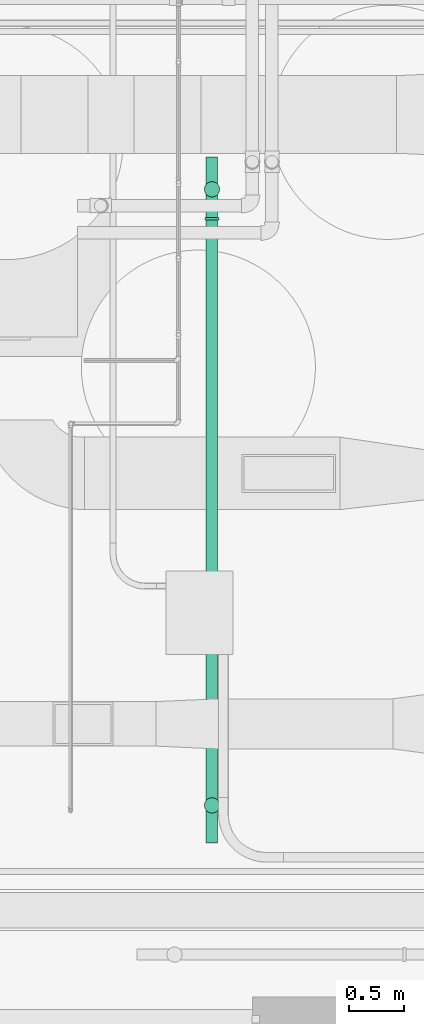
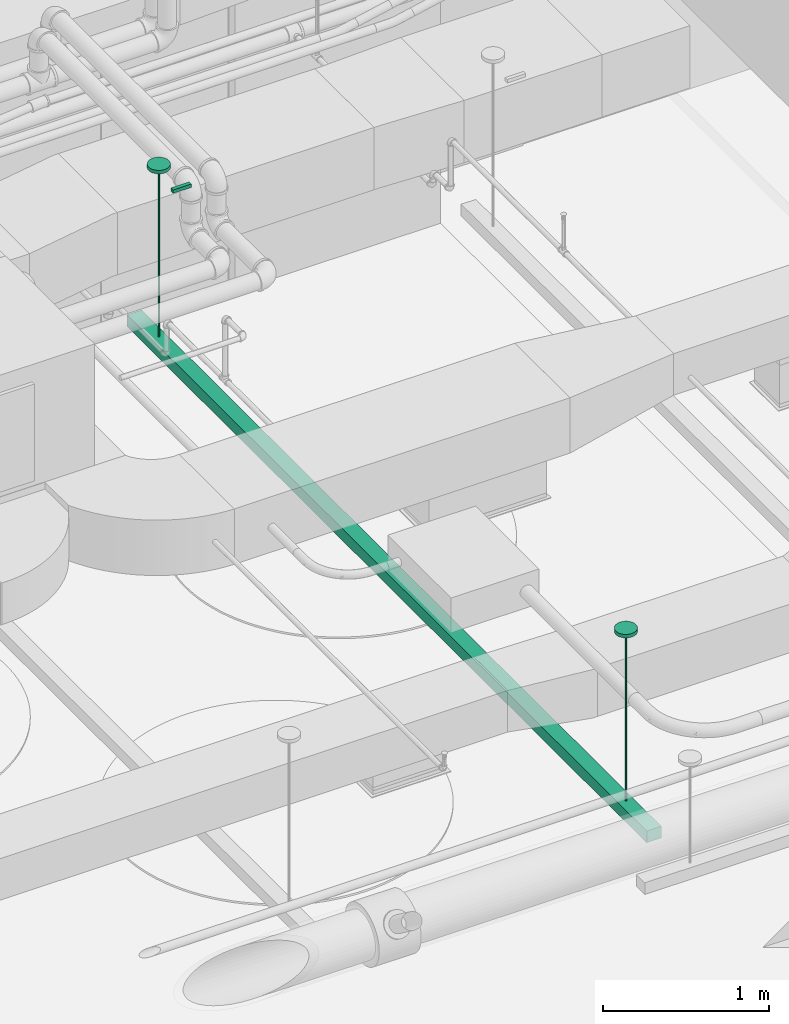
# One storey, part 28 of 108: 1 light fixture.
"""IFC4 building model written with IfcOpenShell, lengths in feet."""

from ifc_helpers import new_model, entity, si_unit, converted_unit, derived_unit, direction, frame, origin, place, context, subcontext, project, spatial, source, transform, mapped, material, type_object, type_shapes, element, save


model = new_model("IFC4")

# Units and contexts
model_context = context("Model", 3, precision=0.0001, world=origin(), true_north=direction((6.12303176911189e-17, 1.0)))
body_context = subcontext(model_context, "Body", "Model", "MODEL_VIEW")
ifc_project = project(units=[converted_unit("LENGTHUNIT", "FOOT", entity("IfcRatioMeasure", 0.3048), si_unit("LENGTHUNIT", "METRE"), dimensions=[1, 0, 0, 0, 0, 0, 0]), converted_unit("AREAUNIT", "SQUARE FOOT", entity("IfcRatioMeasure", 0.09290304), si_unit("AREAUNIT", "SQUARE_METRE"), dimensions=[2, 0, 0, 0, 0, 0, 0]), converted_unit("VOLUMEUNIT", "CUBIC FOOT", entity("IfcRatioMeasure", 0.028316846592), si_unit("VOLUMEUNIT", "CUBIC_METRE"), dimensions=[3, 0, 0, 0, 0, 0, 0]), converted_unit("PLANEANGLEUNIT", "DEGREE", entity("IfcRatioMeasure", 0.0174532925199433), si_unit("PLANEANGLEUNIT", "RADIAN"), dimensions=[0, 0, 0, 0, 0, 0, 0]), si_unit("MASSUNIT", "GRAM", prefix="KILO"), derived_unit("MASSDENSITYUNIT", [(si_unit("MASSUNIT", "GRAM", prefix="KILO"), 1), (si_unit("LENGTHUNIT", "METRE"), -3)]), si_unit("TIMEUNIT", "SECOND"), si_unit("FREQUENCYUNIT", "HERTZ"), si_unit("THERMODYNAMICTEMPERATUREUNIT", "DEGREE_CELSIUS"), derived_unit("THERMALTRANSMITTANCEUNIT", [(si_unit("MASSUNIT", "GRAM", prefix="KILO"), 1), (si_unit("THERMODYNAMICTEMPERATUREUNIT", "KELVIN"), -1), (si_unit("TIMEUNIT", "SECOND"), -3)]), derived_unit("VOLUMETRICFLOWRATEUNIT", [(si_unit("LENGTHUNIT", "METRE"), 3), (si_unit("TIMEUNIT", "SECOND"), -1)]), si_unit("ELECTRICCURRENTUNIT", "AMPERE"), si_unit("ELECTRICVOLTAGEUNIT", "VOLT"), si_unit("POWERUNIT", "WATT"), si_unit("FORCEUNIT", "NEWTON"), si_unit("ILLUMINANCEUNIT", "LUX"), si_unit("LUMINOUSFLUXUNIT", "LUMEN"), si_unit("LUMINOUSINTENSITYUNIT", "CANDELA"), derived_unit("USERDEFINED", [(si_unit("MASSUNIT", "GRAM", prefix="KILO"), -1), (si_unit("LENGTHUNIT", "METRE"), -2), (si_unit("TIMEUNIT", "SECOND"), 3), (si_unit("LUMINOUSFLUXUNIT", "LUMEN"), 1)]), derived_unit("LINEARVELOCITYUNIT", [(si_unit("LENGTHUNIT", "METRE"), 1), (si_unit("TIMEUNIT", "SECOND"), -1)]), si_unit("PRESSUREUNIT", "PASCAL"), derived_unit("USERDEFINED", [(si_unit("LENGTHUNIT", "METRE"), -2), (si_unit("MASSUNIT", "GRAM", prefix="KILO"), 1), (si_unit("TIMEUNIT", "SECOND"), -2)])], contexts=[model_context])

# Site, building, storey
site_placement = place(None, origin())
site = spatial("IfcSite", under=ifc_project, at=site_placement, Name="Default", CompositionType="ELEMENT")
building_placement = place(site_placement, origin())
building = spatial("IfcBuilding", under=site, at=building_placement, CompositionType="ELEMENT")
storey_placement = place(building_placement, frame((0.0, 0.0, 168.0)))
storey = spatial("IfcBuildingStorey", under=building, at=storey_placement, Name="Level 15", CompositionType="ELEMENT", Elevation=168.0)

# Light fixture
ifc_material = material(Name="Lighting Proxy", Category="System")
light_fixture_type = type_object("IfcLightFixtureType", Name="20' 8\"", PredefinedType="NOTDEFINED", material=ifc_material)
cartesian_point_1 = entity("IfcCartesianPoint", [0.891666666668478, 0.23440049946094, 4.43794169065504])
vertex_point_1 = entity("IfcVertexPoint", cartesian_point_1)
cartesian_point_2 = entity("IfcCartesianPoint", [1.35000000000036, 0.23440049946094, 4.43794169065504])
vertex_point_2 = entity("IfcVertexPoint", cartesian_point_2)
cartesian_point_3 = entity("IfcCartesianPoint", [1.12083333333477, 0.23440049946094, 4.43794169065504])
ifc_direction_1 = entity("IfcDirection", [0.0, 0.0, -1.0])
ifc_direction_2 = entity("IfcDirection", [1.0, 0.0, 0.0])
edge_curve_1 = entity("IfcEdgeCurve", vertex_point_1, vertex_point_2, entity("IfcTrimmedCurve", entity("IfcCircle", entity("IfcAxis2Placement3D", cartesian_point_3, ifc_direction_1, ifc_direction_2), 0.22916666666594), [cartesian_point_1], [cartesian_point_2], True, "CARTESIAN"), True)
cartesian_point_4 = entity("IfcCartesianPoint", [1.35000000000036, 0.234400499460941, 4.35387752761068])
vertex_point_3 = entity("IfcVertexPoint", cartesian_point_4)
edge_curve_2 = entity("IfcEdgeCurve", vertex_point_2, vertex_point_3, entity("IfcTrimmedCurve", entity("IfcLine", cartesian_point_2, entity("IfcVector", ifc_direction_1, 1.0)), [cartesian_point_2], [cartesian_point_4], True, "CARTESIAN"), True)
cartesian_point_5 = entity("IfcCartesianPoint", [0.891666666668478, 0.234400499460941, 4.35387752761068])
vertex_point_4 = entity("IfcVertexPoint", cartesian_point_5)
cartesian_point_6 = entity("IfcCartesianPoint", [1.12083333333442, 0.234400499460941, 4.35387752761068])
ifc_direction_3 = entity("IfcDirection", [0.0, 0.0, 1.0])
edge_curve_3 = entity("IfcEdgeCurve", vertex_point_3, vertex_point_4, entity("IfcTrimmedCurve", entity("IfcCircle", entity("IfcAxis2Placement3D", cartesian_point_6, ifc_direction_3, ifc_direction_2), 0.22916666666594), [cartesian_point_4], [cartesian_point_5], True, "CARTESIAN"), True)
edge_curve_4 = entity("IfcEdgeCurve", vertex_point_4, vertex_point_1, entity("IfcTrimmedCurve", entity("IfcLine", cartesian_point_5, entity("IfcVector", ifc_direction_3, 1.0)), [cartesian_point_5], [cartesian_point_1], True, "CARTESIAN"), True)
cartesian_point_7 = entity("IfcCartesianPoint", [1.12083333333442, 0.234400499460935, 4.75044169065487])
edge_curve_5 = entity("IfcEdgeCurve", vertex_point_2, vertex_point_1, entity("IfcTrimmedCurve", entity("IfcCircle", entity("IfcAxis2Placement3D", cartesian_point_3, ifc_direction_1, ifc_direction_2), 0.22916666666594), [cartesian_point_2], [cartesian_point_1], True, "CARTESIAN"), True)
edge_curve_6 = entity("IfcEdgeCurve", vertex_point_4, vertex_point_3, entity("IfcTrimmedCurve", entity("IfcCircle", entity("IfcAxis2Placement3D", cartesian_point_6, ifc_direction_3, ifc_direction_2), 0.22916666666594), [cartesian_point_5], [cartesian_point_4], True, "CARTESIAN"), True)
cartesian_point_8 = entity("IfcCartesianPoint", [1.14166666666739, 0.234400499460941, 4.35387752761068])
vertex_point_5 = entity("IfcVertexPoint", cartesian_point_8)
ifc_direction_4 = entity("IfcDirection", [-1.0, 0.0, 0.0])
edge_curve_7 = entity("IfcEdgeCurve", vertex_point_3, vertex_point_5, entity("IfcTrimmedCurve", entity("IfcLine", cartesian_point_4, entity("IfcVector", ifc_direction_4, 1.0)), [cartesian_point_4], [cartesian_point_8], True, "CARTESIAN"), True)
cartesian_point_9 = entity("IfcCartesianPoint", [1.10000000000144, 0.234400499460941, 4.35387752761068])
vertex_point_6 = entity("IfcVertexPoint", cartesian_point_9)
edge_curve_8 = entity("IfcEdgeCurve", vertex_point_5, vertex_point_6, entity("IfcTrimmedCurve", entity("IfcCircle", entity("IfcAxis2Placement3D", cartesian_point_6, ifc_direction_3, ifc_direction_2), 0.0208333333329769), [cartesian_point_8], [cartesian_point_9], True, "CARTESIAN"), True)
edge_curve_9 = entity("IfcEdgeCurve", vertex_point_6, vertex_point_4, entity("IfcTrimmedCurve", entity("IfcLine", cartesian_point_9, entity("IfcVector", ifc_direction_4, 1.0)), [cartesian_point_9], [cartesian_point_5], True, "CARTESIAN"), True)
edge_curve_10 = entity("IfcEdgeCurve", vertex_point_6, vertex_point_5, entity("IfcTrimmedCurve", entity("IfcCircle", entity("IfcAxis2Placement3D", cartesian_point_6, ifc_direction_3, ifc_direction_2), 0.0208333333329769), [cartesian_point_9], [cartesian_point_8], True, "CARTESIAN"), True)
cartesian_point_10 = entity("IfcCartesianPoint", [1.14166666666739, 0.234400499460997, 0.281250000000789])
vertex_point_7 = entity("IfcVertexPoint", cartesian_point_10)
edge_curve_11 = entity("IfcEdgeCurve", vertex_point_5, vertex_point_7, entity("IfcTrimmedCurve", entity("IfcLine", cartesian_point_8, entity("IfcVector", ifc_direction_1, 1.0)), [cartesian_point_8], [cartesian_point_10], True, "CARTESIAN"), True)
cartesian_point_11 = entity("IfcCartesianPoint", [1.10000000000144, 0.234400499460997, 0.281250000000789])
vertex_point_8 = entity("IfcVertexPoint", cartesian_point_11)
cartesian_point_12 = entity("IfcCartesianPoint", [1.12083333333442, 0.234400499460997, 0.281250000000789])
edge_curve_12 = entity("IfcEdgeCurve", vertex_point_7, vertex_point_8, entity("IfcTrimmedCurve", entity("IfcCircle", entity("IfcAxis2Placement3D", cartesian_point_12, ifc_direction_3, ifc_direction_2), 0.0208333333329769), [cartesian_point_10], [cartesian_point_11], True, "CARTESIAN"), True)
edge_curve_13 = entity("IfcEdgeCurve", vertex_point_8, vertex_point_6, entity("IfcTrimmedCurve", entity("IfcLine", cartesian_point_11, entity("IfcVector", ifc_direction_3, 1.0)), [cartesian_point_11], [cartesian_point_9], True, "CARTESIAN"), True)
edge_curve_14 = entity("IfcEdgeCurve", vertex_point_8, vertex_point_7, entity("IfcTrimmedCurve", entity("IfcCircle", entity("IfcAxis2Placement3D", cartesian_point_12, ifc_direction_3, ifc_direction_2), 0.0208333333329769), [cartesian_point_11], [cartesian_point_10], True, "CARTESIAN"), True)
vertex_point_9 = entity("IfcVertexPoint", cartesian_point_12)
edge_curve_15 = entity("IfcEdgeCurve", vertex_point_7, vertex_point_9, entity("IfcTrimmedCurve", entity("IfcLine", cartesian_point_10, entity("IfcVector", ifc_direction_4, 1.0)), [cartesian_point_10], [cartesian_point_12], True, "CARTESIAN"), True)
edge_curve_16 = entity("IfcEdgeCurve", vertex_point_9, vertex_point_8, entity("IfcTrimmedCurve", entity("IfcLine", cartesian_point_12, entity("IfcVector", ifc_direction_4, 1.0)), [cartesian_point_12], [cartesian_point_11], True, "CARTESIAN"), True)
vertex_point_10 = entity("IfcVertexPoint", cartesian_point_3)
edge_curve_17 = entity("IfcEdgeCurve", vertex_point_10, vertex_point_2, entity("IfcTrimmedCurve", entity("IfcLine", cartesian_point_3, entity("IfcVector", ifc_direction_2, 1.0)), [cartesian_point_3], [cartesian_point_2], True, "CARTESIAN"), True)
edge_curve_18 = entity("IfcEdgeCurve", vertex_point_1, vertex_point_10, entity("IfcTrimmedCurve", entity("IfcLine", cartesian_point_1, entity("IfcVector", ifc_direction_2, 1.0)), [cartesian_point_1], [cartesian_point_3], True, "CARTESIAN"), True)
cartesian_point_13 = entity("IfcCartesianPoint", [19.7749999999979, 0.23440049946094, 4.43794169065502])
vertex_point_11 = entity("IfcVertexPoint", cartesian_point_13)
cartesian_point_14 = entity("IfcCartesianPoint", [19.3166666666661, 0.23440049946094, 4.43794169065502])
vertex_point_12 = entity("IfcVertexPoint", cartesian_point_14)
cartesian_point_15 = entity("IfcCartesianPoint", [19.5458333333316, 0.23440049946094, 4.43794169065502])
ifc_direction_5 = entity("IfcDirection", [0.0, 0.0, 1.0])
ifc_direction_6 = entity("IfcDirection", [-1.0, 0.0, 0.0])
edge_curve_19 = entity("IfcEdgeCurve", vertex_point_11, vertex_point_12, entity("IfcTrimmedCurve", entity("IfcCircle", entity("IfcAxis2Placement3D", cartesian_point_15, ifc_direction_5, ifc_direction_6), 0.229166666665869), [cartesian_point_13], [cartesian_point_14], True, "CARTESIAN"), True)
vertex_point_13 = entity("IfcVertexPoint", cartesian_point_15)
ifc_direction_7 = entity("IfcDirection", [1.0, 0.0, 0.0])
edge_curve_20 = entity("IfcEdgeCurve", vertex_point_12, vertex_point_13, entity("IfcTrimmedCurve", entity("IfcLine", cartesian_point_14, entity("IfcVector", ifc_direction_7, 1.0)), [cartesian_point_14], [cartesian_point_15], True, "CARTESIAN"), True)
edge_curve_21 = entity("IfcEdgeCurve", vertex_point_13, vertex_point_11, entity("IfcTrimmedCurve", entity("IfcLine", cartesian_point_15, entity("IfcVector", ifc_direction_7, 1.0)), [cartesian_point_15], [cartesian_point_13], True, "CARTESIAN"), True)
edge_curve_22 = entity("IfcEdgeCurve", vertex_point_12, vertex_point_11, entity("IfcTrimmedCurve", entity("IfcCircle", entity("IfcAxis2Placement3D", cartesian_point_15, ifc_direction_5, ifc_direction_6), 0.229166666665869), [cartesian_point_14], [cartesian_point_13], True, "CARTESIAN"), True)
cartesian_point_16 = entity("IfcCartesianPoint", [19.7749999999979, 0.234400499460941, 4.35387752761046])
vertex_point_14 = entity("IfcVertexPoint", cartesian_point_16)
cartesian_point_17 = entity("IfcCartesianPoint", [19.3166666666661, 0.234400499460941, 4.35387752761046])
vertex_point_15 = entity("IfcVertexPoint", cartesian_point_17)
cartesian_point_18 = entity("IfcCartesianPoint", [19.545833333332, 0.234400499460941, 4.35387752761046])
edge_curve_23 = entity("IfcEdgeCurve", vertex_point_14, vertex_point_15, entity("IfcTrimmedCurve", entity("IfcCircle", entity("IfcAxis2Placement3D", cartesian_point_18, ifc_direction_5, ifc_direction_6), 0.229166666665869), [cartesian_point_16], [cartesian_point_17], True, "CARTESIAN"), True)
edge_curve_24 = entity("IfcEdgeCurve", vertex_point_15, vertex_point_12, entity("IfcTrimmedCurve", entity("IfcLine", cartesian_point_17, entity("IfcVector", ifc_direction_5, 1.0)), [cartesian_point_17], [cartesian_point_14], True, "CARTESIAN"), True)
ifc_direction_8 = entity("IfcDirection", [0.0, 0.0, -1.0])
edge_curve_25 = entity("IfcEdgeCurve", vertex_point_11, vertex_point_14, entity("IfcTrimmedCurve", entity("IfcLine", cartesian_point_13, entity("IfcVector", ifc_direction_8, 1.0)), [cartesian_point_13], [cartesian_point_16], True, "CARTESIAN"), True)
cartesian_point_19 = entity("IfcCartesianPoint", [19.545833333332, 0.234400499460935, 4.75044169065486])
edge_curve_26 = entity("IfcEdgeCurve", vertex_point_15, vertex_point_14, entity("IfcTrimmedCurve", entity("IfcCircle", entity("IfcAxis2Placement3D", cartesian_point_18, ifc_direction_5, ifc_direction_6), 0.229166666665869), [cartesian_point_17], [cartesian_point_16], True, "CARTESIAN"), True)
cartesian_point_20 = entity("IfcCartesianPoint", [19.5666666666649, 0.234400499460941, 4.35387752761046])
vertex_point_16 = entity("IfcVertexPoint", cartesian_point_20)
cartesian_point_21 = entity("IfcCartesianPoint", [19.5249999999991, 0.234400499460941, 4.35387752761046])
vertex_point_17 = entity("IfcVertexPoint", cartesian_point_21)
edge_curve_27 = entity("IfcEdgeCurve", vertex_point_16, vertex_point_17, entity("IfcTrimmedCurve", entity("IfcCircle", entity("IfcAxis2Placement3D", cartesian_point_18, ifc_direction_5, ifc_direction_6), 0.0208333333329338), [cartesian_point_20], [cartesian_point_21], True, "CARTESIAN"), True)
edge_curve_28 = entity("IfcEdgeCurve", vertex_point_17, vertex_point_15, entity("IfcTrimmedCurve", entity("IfcLine", cartesian_point_21, entity("IfcVector", ifc_direction_6, 1.0)), [cartesian_point_21], [cartesian_point_17], True, "CARTESIAN"), True)
edge_curve_29 = entity("IfcEdgeCurve", vertex_point_14, vertex_point_16, entity("IfcTrimmedCurve", entity("IfcLine", cartesian_point_16, entity("IfcVector", ifc_direction_6, 1.0)), [cartesian_point_16], [cartesian_point_20], True, "CARTESIAN"), True)
edge_curve_30 = entity("IfcEdgeCurve", vertex_point_17, vertex_point_16, entity("IfcTrimmedCurve", entity("IfcCircle", entity("IfcAxis2Placement3D", cartesian_point_18, ifc_direction_5, ifc_direction_6), 0.0208333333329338), [cartesian_point_21], [cartesian_point_20], True, "CARTESIAN"), True)
cartesian_point_22 = entity("IfcCartesianPoint", [19.5666666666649, 0.234400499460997, 0.281250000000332])
vertex_point_18 = entity("IfcVertexPoint", cartesian_point_22)
cartesian_point_23 = entity("IfcCartesianPoint", [19.5249999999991, 0.234400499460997, 0.281250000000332])
vertex_point_19 = entity("IfcVertexPoint", cartesian_point_23)
cartesian_point_24 = entity("IfcCartesianPoint", [19.5458333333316, 0.234400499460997, 0.281250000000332])
edge_curve_31 = entity("IfcEdgeCurve", vertex_point_18, vertex_point_19, entity("IfcTrimmedCurve", entity("IfcCircle", entity("IfcAxis2Placement3D", cartesian_point_24, ifc_direction_5, ifc_direction_6), 0.0208333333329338), [cartesian_point_22], [cartesian_point_23], True, "CARTESIAN"), True)
edge_curve_32 = entity("IfcEdgeCurve", vertex_point_19, vertex_point_17, entity("IfcTrimmedCurve", entity("IfcLine", cartesian_point_23, entity("IfcVector", ifc_direction_5, 1.0)), [cartesian_point_23], [cartesian_point_21], True, "CARTESIAN"), True)
edge_curve_33 = entity("IfcEdgeCurve", vertex_point_16, vertex_point_18, entity("IfcTrimmedCurve", entity("IfcLine", cartesian_point_20, entity("IfcVector", ifc_direction_8, 1.0)), [cartesian_point_20], [cartesian_point_22], True, "CARTESIAN"), True)
edge_curve_34 = entity("IfcEdgeCurve", vertex_point_19, vertex_point_18, entity("IfcTrimmedCurve", entity("IfcCircle", entity("IfcAxis2Placement3D", cartesian_point_24, ifc_direction_5, ifc_direction_6), 0.0208333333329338), [cartesian_point_23], [cartesian_point_22], True, "CARTESIAN"), True)
vertex_point_20 = entity("IfcVertexPoint", cartesian_point_24)
edge_curve_35 = entity("IfcEdgeCurve", vertex_point_20, vertex_point_19, entity("IfcTrimmedCurve", entity("IfcLine", cartesian_point_24, entity("IfcVector", ifc_direction_6, 1.0)), [cartesian_point_24], [cartesian_point_23], True, "CARTESIAN"), True)
edge_curve_36 = entity("IfcEdgeCurve", vertex_point_18, vertex_point_20, entity("IfcTrimmedCurve", entity("IfcLine", cartesian_point_22, entity("IfcVector", ifc_direction_6, 1.0)), [cartesian_point_22], [cartesian_point_24], True, "CARTESIAN"), True)
cartesian_point_25 = entity("IfcCartesianPoint", [18.7083333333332, 0.0260671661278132, 4.43794169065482])
vertex_point_21 = entity("IfcVertexPoint", cartesian_point_25)
cartesian_point_26 = entity("IfcCartesianPoint", [18.7083333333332, 0.44273383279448, 4.43794169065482])
vertex_point_22 = entity("IfcVertexPoint", cartesian_point_26)
ifc_direction_9 = entity("IfcDirection", [0.0, 1.0, 0.0])
edge_curve_37 = entity("IfcEdgeCurve", vertex_point_21, vertex_point_22, entity("IfcTrimmedCurve", entity("IfcLine", cartesian_point_25, entity("IfcVector", ifc_direction_9, 1.0)), [cartesian_point_25], [cartesian_point_26], True, "CARTESIAN"), True)
cartesian_point_27 = entity("IfcCartesianPoint", [18.6249999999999, 0.44273383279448, 4.43794169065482])
vertex_point_23 = entity("IfcVertexPoint", cartesian_point_27)
ifc_direction_10 = entity("IfcDirection", [-1.0, 0.0, 0.0])
edge_curve_38 = entity("IfcEdgeCurve", vertex_point_22, vertex_point_23, entity("IfcTrimmedCurve", entity("IfcLine", cartesian_point_26, entity("IfcVector", ifc_direction_10, 1.0)), [cartesian_point_26], [cartesian_point_27], True, "CARTESIAN"), True)
cartesian_point_28 = entity("IfcCartesianPoint", [18.6249999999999, 0.0260671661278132, 4.43794169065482])
vertex_point_24 = entity("IfcVertexPoint", cartesian_point_28)
ifc_direction_11 = entity("IfcDirection", [0.0, -1.0, 0.0])
edge_curve_39 = entity("IfcEdgeCurve", vertex_point_23, vertex_point_24, entity("IfcTrimmedCurve", entity("IfcLine", cartesian_point_27, entity("IfcVector", ifc_direction_11, 1.0)), [cartesian_point_27], [cartesian_point_28], True, "CARTESIAN"), True)
ifc_direction_12 = entity("IfcDirection", [1.0, 0.0, 0.0])
edge_curve_40 = entity("IfcEdgeCurve", vertex_point_24, vertex_point_21, entity("IfcTrimmedCurve", entity("IfcLine", cartesian_point_28, entity("IfcVector", ifc_direction_12, 1.0)), [cartesian_point_28], [cartesian_point_25], True, "CARTESIAN"), True)
ifc_direction_13 = entity("IfcDirection", [0.0, 0.0, 1.0])
cartesian_point_29 = entity("IfcCartesianPoint", [18.7083333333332, 0.0260671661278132, 4.35460835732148])
vertex_point_25 = entity("IfcVertexPoint", cartesian_point_29)
cartesian_point_30 = entity("IfcCartesianPoint", [18.6249999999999, 0.0260671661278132, 4.35460835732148])
vertex_point_26 = entity("IfcVertexPoint", cartesian_point_30)
edge_curve_41 = entity("IfcEdgeCurve", vertex_point_25, vertex_point_26, entity("IfcTrimmedCurve", entity("IfcLine", cartesian_point_29, entity("IfcVector", ifc_direction_10, 1.0)), [cartesian_point_29], [cartesian_point_30], True, "CARTESIAN"), True)
cartesian_point_31 = entity("IfcCartesianPoint", [18.6249999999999, 0.44273383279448, 4.35460835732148])
vertex_point_27 = entity("IfcVertexPoint", cartesian_point_31)
edge_curve_42 = entity("IfcEdgeCurve", vertex_point_26, vertex_point_27, entity("IfcTrimmedCurve", entity("IfcLine", cartesian_point_30, entity("IfcVector", ifc_direction_9, 1.0)), [cartesian_point_30], [cartesian_point_31], True, "CARTESIAN"), True)
cartesian_point_32 = entity("IfcCartesianPoint", [18.7083333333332, 0.44273383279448, 4.35460835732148])
vertex_point_28 = entity("IfcVertexPoint", cartesian_point_32)
edge_curve_43 = entity("IfcEdgeCurve", vertex_point_27, vertex_point_28, entity("IfcTrimmedCurve", entity("IfcLine", cartesian_point_31, entity("IfcVector", ifc_direction_12, 1.0)), [cartesian_point_31], [cartesian_point_32], True, "CARTESIAN"), True)
edge_curve_44 = entity("IfcEdgeCurve", vertex_point_28, vertex_point_25, entity("IfcTrimmedCurve", entity("IfcLine", cartesian_point_32, entity("IfcVector", ifc_direction_11, 1.0)), [cartesian_point_32], [cartesian_point_29], True, "CARTESIAN"), True)
ifc_direction_14 = entity("IfcDirection", [0.0, 0.0, -1.0])
edge_curve_45 = entity("IfcEdgeCurve", vertex_point_21, vertex_point_25, entity("IfcTrimmedCurve", entity("IfcLine", cartesian_point_25, entity("IfcVector", ifc_direction_14, 1.0)), [cartesian_point_25], [cartesian_point_29], True, "CARTESIAN"), True)
edge_curve_46 = entity("IfcEdgeCurve", vertex_point_28, vertex_point_22, entity("IfcTrimmedCurve", entity("IfcLine", cartesian_point_26, entity("IfcVector", ifc_direction_13, 1.0)), [cartesian_point_32], [cartesian_point_26], True, "CARTESIAN"), True)
edge_curve_47 = entity("IfcEdgeCurve", vertex_point_27, vertex_point_23, entity("IfcTrimmedCurve", entity("IfcLine", cartesian_point_27, entity("IfcVector", ifc_direction_13, 1.0)), [cartesian_point_31], [cartesian_point_27], True, "CARTESIAN"), True)
edge_curve_48 = entity("IfcEdgeCurve", vertex_point_26, vertex_point_24, entity("IfcTrimmedCurve", entity("IfcLine", cartesian_point_28, entity("IfcVector", ifc_direction_13, 1.0)), [cartesian_point_30], [cartesian_point_28], True, "CARTESIAN"), True)
cartesian_point_33 = entity("IfcCartesianPoint", [20.507260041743, 0.40656789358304, 0.28125000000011])
vertex_point_29 = entity("IfcVertexPoint", cartesian_point_33)
cartesian_point_34 = entity("IfcCartesianPoint", [0.0, 0.40656789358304, 0.281250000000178])
vertex_point_30 = entity("IfcVertexPoint", cartesian_point_34)
ifc_direction_15 = entity("IfcDirection", [-1.0, 0.0, 0.0])
edge_curve_49 = entity("IfcEdgeCurve", vertex_point_29, vertex_point_30, entity("IfcTrimmedCurve", entity("IfcLine", cartesian_point_33, entity("IfcVector", ifc_direction_15, 1.0)), [cartesian_point_33], [cartesian_point_34], True, "CARTESIAN"), True)
cartesian_point_35 = entity("IfcCartesianPoint", [0.0, 0.0732345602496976, 0.281250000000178])
vertex_point_31 = entity("IfcVertexPoint", cartesian_point_35)
ifc_direction_16 = entity("IfcDirection", [0.0, -1.0, 0.0])
edge_curve_50 = entity("IfcEdgeCurve", vertex_point_30, vertex_point_31, entity("IfcTrimmedCurve", entity("IfcLine", cartesian_point_34, entity("IfcVector", ifc_direction_16, 1.0)), [cartesian_point_34], [cartesian_point_35], True, "CARTESIAN"), True)
cartesian_point_36 = entity("IfcCartesianPoint", [20.507260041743, 0.0732345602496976, 0.28125000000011])
vertex_point_32 = entity("IfcVertexPoint", cartesian_point_36)
ifc_direction_17 = entity("IfcDirection", [1.0, 0.0, 0.0])
edge_curve_51 = entity("IfcEdgeCurve", vertex_point_31, vertex_point_32, entity("IfcTrimmedCurve", entity("IfcLine", cartesian_point_35, entity("IfcVector", ifc_direction_17, 1.0)), [cartesian_point_35], [cartesian_point_36], True, "CARTESIAN"), True)
ifc_direction_18 = entity("IfcDirection", [0.0, 1.0, 0.0])
edge_curve_52 = entity("IfcEdgeCurve", vertex_point_32, vertex_point_29, entity("IfcTrimmedCurve", entity("IfcLine", cartesian_point_36, entity("IfcVector", ifc_direction_18, 1.0)), [cartesian_point_36], [cartesian_point_33], True, "CARTESIAN"), True)
ifc_direction_19 = entity("IfcDirection", [0.0, 0.0, 1.0])
cartesian_point_37 = entity("IfcCartesianPoint", [20.507260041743, 0.40656789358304, 0.0])
vertex_point_33 = entity("IfcVertexPoint", cartesian_point_37)
cartesian_point_38 = entity("IfcCartesianPoint", [20.507260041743, 0.0732345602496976, 0.0])
vertex_point_34 = entity("IfcVertexPoint", cartesian_point_38)
edge_curve_53 = entity("IfcEdgeCurve", vertex_point_33, vertex_point_34, entity("IfcTrimmedCurve", entity("IfcLine", cartesian_point_37, entity("IfcVector", ifc_direction_16, 1.0)), [cartesian_point_37], [cartesian_point_38], True, "CARTESIAN"), True)
cartesian_point_39 = entity("IfcCartesianPoint", [0.0, 0.0732345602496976, 0.0])
vertex_point_35 = entity("IfcVertexPoint", cartesian_point_39)
edge_curve_54 = entity("IfcEdgeCurve", vertex_point_34, vertex_point_35, entity("IfcTrimmedCurve", entity("IfcLine", cartesian_point_38, entity("IfcVector", ifc_direction_15, 1.0)), [cartesian_point_38], [cartesian_point_39], True, "CARTESIAN"), True)
cartesian_point_40 = entity("IfcCartesianPoint", [0.0, 0.40656789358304, 0.0])
vertex_point_36 = entity("IfcVertexPoint", cartesian_point_40)
edge_curve_55 = entity("IfcEdgeCurve", vertex_point_35, vertex_point_36, entity("IfcTrimmedCurve", entity("IfcLine", cartesian_point_39, entity("IfcVector", ifc_direction_18, 1.0)), [cartesian_point_39], [cartesian_point_40], True, "CARTESIAN"), True)
edge_curve_56 = entity("IfcEdgeCurve", vertex_point_36, vertex_point_33, entity("IfcTrimmedCurve", entity("IfcLine", cartesian_point_40, entity("IfcVector", ifc_direction_17, 1.0)), [cartesian_point_40], [cartesian_point_37], True, "CARTESIAN"), True)
ifc_direction_20 = entity("IfcDirection", [0.0, 0.0, -1.0])
edge_curve_57 = entity("IfcEdgeCurve", vertex_point_29, vertex_point_33, entity("IfcTrimmedCurve", entity("IfcLine", cartesian_point_33, entity("IfcVector", ifc_direction_20, 1.0)), [cartesian_point_33], [cartesian_point_37], True, "CARTESIAN"), True)
edge_curve_58 = entity("IfcEdgeCurve", vertex_point_36, vertex_point_30, entity("IfcTrimmedCurve", entity("IfcLine", cartesian_point_34, entity("IfcVector", ifc_direction_19, 1.0)), [cartesian_point_40], [cartesian_point_34], True, "CARTESIAN"), True)
edge_curve_59 = entity("IfcEdgeCurve", vertex_point_31, vertex_point_35, entity("IfcTrimmedCurve", entity("IfcLine", cartesian_point_35, entity("IfcVector", ifc_direction_20, 1.0)), [cartesian_point_35], [cartesian_point_39], True, "CARTESIAN"), True)
edge_curve_60 = entity("IfcEdgeCurve", vertex_point_34, vertex_point_32, entity("IfcTrimmedCurve", entity("IfcLine", cartesian_point_36, entity("IfcVector", ifc_direction_19, 1.0)), [cartesian_point_38], [cartesian_point_36], True, "CARTESIAN"), True)
shared_shape = source(origin(), body_context, "Body", "AdvancedBrep", [
    entity("IfcAdvancedBrep", entity("IfcClosedShell", [entity("IfcAdvancedFace", [entity("IfcFaceOuterBound", entity("IfcEdgeLoop", [entity("IfcOrientedEdge", None, None, edge_curve_1, True), entity("IfcOrientedEdge", None, None, edge_curve_2, True), entity("IfcOrientedEdge", None, None, edge_curve_3, True), entity("IfcOrientedEdge", None, None, edge_curve_4, True)]), True)], entity("IfcCylindricalSurface", entity("IfcAxis2Placement3D", cartesian_point_7, ifc_direction_3, ifc_direction_2), 0.22916666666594), True), entity("IfcAdvancedFace", [entity("IfcFaceOuterBound", entity("IfcEdgeLoop", [entity("IfcOrientedEdge", None, None, edge_curve_5, True), entity("IfcOrientedEdge", None, None, edge_curve_4, False), entity("IfcOrientedEdge", None, None, edge_curve_6, True), entity("IfcOrientedEdge", None, None, edge_curve_2, False)]), True)], entity("IfcCylindricalSurface", entity("IfcAxis2Placement3D", cartesian_point_7, ifc_direction_3, ifc_direction_2), 0.22916666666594), True), entity("IfcAdvancedFace", [entity("IfcFaceOuterBound", entity("IfcEdgeLoop", [entity("IfcOrientedEdge", None, None, edge_curve_3, False), entity("IfcOrientedEdge", None, None, edge_curve_7, True), entity("IfcOrientedEdge", None, None, edge_curve_8, True), entity("IfcOrientedEdge", None, None, edge_curve_9, True)]), True)], entity("IfcPlane", entity("IfcAxis2Placement3D", cartesian_point_6, ifc_direction_1, ifc_direction_2)), True), entity("IfcAdvancedFace", [entity("IfcFaceOuterBound", entity("IfcEdgeLoop", [entity("IfcOrientedEdge", None, None, edge_curve_6, False), entity("IfcOrientedEdge", None, None, edge_curve_9, False), entity("IfcOrientedEdge", None, None, edge_curve_10, True), entity("IfcOrientedEdge", None, None, edge_curve_7, False)]), True)], entity("IfcPlane", entity("IfcAxis2Placement3D", cartesian_point_6, ifc_direction_1, ifc_direction_2)), True), entity("IfcAdvancedFace", [entity("IfcFaceOuterBound", entity("IfcEdgeLoop", [entity("IfcOrientedEdge", None, None, edge_curve_8, False), entity("IfcOrientedEdge", None, None, edge_curve_11, True), entity("IfcOrientedEdge", None, None, edge_curve_12, True), entity("IfcOrientedEdge", None, None, edge_curve_13, True)]), True)], entity("IfcCylindricalSurface", entity("IfcAxis2Placement3D", cartesian_point_7, ifc_direction_3, ifc_direction_2), 0.0208333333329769), True), entity("IfcAdvancedFace", [entity("IfcFaceOuterBound", entity("IfcEdgeLoop", [entity("IfcOrientedEdge", None, None, edge_curve_10, False), entity("IfcOrientedEdge", None, None, edge_curve_13, False), entity("IfcOrientedEdge", None, None, edge_curve_14, True), entity("IfcOrientedEdge", None, None, edge_curve_11, False)]), True)], entity("IfcCylindricalSurface", entity("IfcAxis2Placement3D", cartesian_point_7, ifc_direction_3, ifc_direction_2), 0.0208333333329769), True), entity("IfcAdvancedFace", [entity("IfcFaceOuterBound", entity("IfcEdgeLoop", [entity("IfcOrientedEdge", None, None, edge_curve_12, False), entity("IfcOrientedEdge", None, None, edge_curve_15, True), entity("IfcOrientedEdge", None, None, edge_curve_16, True)]), True)], entity("IfcPlane", entity("IfcAxis2Placement3D", cartesian_point_12, ifc_direction_1, ifc_direction_2)), True), entity("IfcAdvancedFace", [entity("IfcFaceOuterBound", entity("IfcEdgeLoop", [entity("IfcOrientedEdge", None, None, edge_curve_14, False), entity("IfcOrientedEdge", None, None, edge_curve_16, False), entity("IfcOrientedEdge", None, None, edge_curve_15, False)]), True)], entity("IfcPlane", entity("IfcAxis2Placement3D", cartesian_point_12, ifc_direction_1, ifc_direction_2)), True), entity("IfcAdvancedFace", [entity("IfcFaceOuterBound", entity("IfcEdgeLoop", [entity("IfcOrientedEdge", None, None, edge_curve_17, True), entity("IfcOrientedEdge", None, None, edge_curve_1, False), entity("IfcOrientedEdge", None, None, edge_curve_18, True)]), True)], entity("IfcPlane", entity("IfcAxis2Placement3D", cartesian_point_3, ifc_direction_3, ifc_direction_2)), True), entity("IfcAdvancedFace", [entity("IfcFaceOuterBound", entity("IfcEdgeLoop", [entity("IfcOrientedEdge", None, None, edge_curve_18, False), entity("IfcOrientedEdge", None, None, edge_curve_5, False), entity("IfcOrientedEdge", None, None, edge_curve_17, False)]), True)], entity("IfcPlane", entity("IfcAxis2Placement3D", cartesian_point_3, ifc_direction_3, ifc_direction_2)), True)])),
    entity("IfcAdvancedBrep", entity("IfcClosedShell", [entity("IfcAdvancedFace", [entity("IfcFaceOuterBound", entity("IfcEdgeLoop", [entity("IfcOrientedEdge", None, None, edge_curve_19, True), entity("IfcOrientedEdge", None, None, edge_curve_20, True), entity("IfcOrientedEdge", None, None, edge_curve_21, True)]), True)], entity("IfcPlane", entity("IfcAxis2Placement3D", cartesian_point_15, ifc_direction_5, ifc_direction_6)), True), entity("IfcAdvancedFace", [entity("IfcFaceOuterBound", entity("IfcEdgeLoop", [entity("IfcOrientedEdge", None, None, edge_curve_22, True), entity("IfcOrientedEdge", None, None, edge_curve_21, False), entity("IfcOrientedEdge", None, None, edge_curve_20, False)]), True)], entity("IfcPlane", entity("IfcAxis2Placement3D", cartesian_point_15, ifc_direction_5, ifc_direction_6)), True), entity("IfcAdvancedFace", [entity("IfcFaceOuterBound", entity("IfcEdgeLoop", [entity("IfcOrientedEdge", None, None, edge_curve_23, True), entity("IfcOrientedEdge", None, None, edge_curve_24, True), entity("IfcOrientedEdge", None, None, edge_curve_19, False), entity("IfcOrientedEdge", None, None, edge_curve_25, True)]), True)], entity("IfcCylindricalSurface", entity("IfcAxis2Placement3D", cartesian_point_19, ifc_direction_8, ifc_direction_6), 0.229166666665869), True), entity("IfcAdvancedFace", [entity("IfcFaceOuterBound", entity("IfcEdgeLoop", [entity("IfcOrientedEdge", None, None, edge_curve_26, True), entity("IfcOrientedEdge", None, None, edge_curve_25, False), entity("IfcOrientedEdge", None, None, edge_curve_22, False), entity("IfcOrientedEdge", None, None, edge_curve_24, False)]), True)], entity("IfcCylindricalSurface", entity("IfcAxis2Placement3D", cartesian_point_19, ifc_direction_8, ifc_direction_6), 0.229166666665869), True), entity("IfcAdvancedFace", [entity("IfcFaceOuterBound", entity("IfcEdgeLoop", [entity("IfcOrientedEdge", None, None, edge_curve_27, True), entity("IfcOrientedEdge", None, None, edge_curve_28, True), entity("IfcOrientedEdge", None, None, edge_curve_23, False), entity("IfcOrientedEdge", None, None, edge_curve_29, True)]), True)], entity("IfcPlane", entity("IfcAxis2Placement3D", cartesian_point_18, ifc_direction_8, ifc_direction_6)), True), entity("IfcAdvancedFace", [entity("IfcFaceOuterBound", entity("IfcEdgeLoop", [entity("IfcOrientedEdge", None, None, edge_curve_30, True), entity("IfcOrientedEdge", None, None, edge_curve_29, False), entity("IfcOrientedEdge", None, None, edge_curve_26, False), entity("IfcOrientedEdge", None, None, edge_curve_28, False)]), True)], entity("IfcPlane", entity("IfcAxis2Placement3D", cartesian_point_18, ifc_direction_8, ifc_direction_6)), True), entity("IfcAdvancedFace", [entity("IfcFaceOuterBound", entity("IfcEdgeLoop", [entity("IfcOrientedEdge", None, None, edge_curve_31, True), entity("IfcOrientedEdge", None, None, edge_curve_32, True), entity("IfcOrientedEdge", None, None, edge_curve_27, False), entity("IfcOrientedEdge", None, None, edge_curve_33, True)]), True)], entity("IfcCylindricalSurface", entity("IfcAxis2Placement3D", cartesian_point_19, ifc_direction_8, ifc_direction_6), 0.0208333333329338), True), entity("IfcAdvancedFace", [entity("IfcFaceOuterBound", entity("IfcEdgeLoop", [entity("IfcOrientedEdge", None, None, edge_curve_34, True), entity("IfcOrientedEdge", None, None, edge_curve_33, False), entity("IfcOrientedEdge", None, None, edge_curve_30, False), entity("IfcOrientedEdge", None, None, edge_curve_32, False)]), True)], entity("IfcCylindricalSurface", entity("IfcAxis2Placement3D", cartesian_point_19, ifc_direction_8, ifc_direction_6), 0.0208333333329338), True), entity("IfcAdvancedFace", [entity("IfcFaceOuterBound", entity("IfcEdgeLoop", [entity("IfcOrientedEdge", None, None, edge_curve_35, True), entity("IfcOrientedEdge", None, None, edge_curve_31, False), entity("IfcOrientedEdge", None, None, edge_curve_36, True)]), True)], entity("IfcPlane", entity("IfcAxis2Placement3D", cartesian_point_24, ifc_direction_8, ifc_direction_6)), True), entity("IfcAdvancedFace", [entity("IfcFaceOuterBound", entity("IfcEdgeLoop", [entity("IfcOrientedEdge", None, None, edge_curve_36, False), entity("IfcOrientedEdge", None, None, edge_curve_34, False), entity("IfcOrientedEdge", None, None, edge_curve_35, False)]), True)], entity("IfcPlane", entity("IfcAxis2Placement3D", cartesian_point_24, ifc_direction_8, ifc_direction_6)), True)])),
    entity("IfcAdvancedBrep", entity("IfcClosedShell", [entity("IfcAdvancedFace", [entity("IfcFaceOuterBound", entity("IfcEdgeLoop", [entity("IfcOrientedEdge", None, None, edge_curve_37, True), entity("IfcOrientedEdge", None, None, edge_curve_38, True), entity("IfcOrientedEdge", None, None, edge_curve_39, True), entity("IfcOrientedEdge", None, None, edge_curve_40, True)]), True)], entity("IfcPlane", entity("IfcAxis2Placement3D", cartesian_point_25, ifc_direction_13, ifc_direction_9)), True), entity("IfcAdvancedFace", [entity("IfcFaceOuterBound", entity("IfcEdgeLoop", [entity("IfcOrientedEdge", None, None, edge_curve_41, True), entity("IfcOrientedEdge", None, None, edge_curve_42, True), entity("IfcOrientedEdge", None, None, edge_curve_43, True), entity("IfcOrientedEdge", None, None, edge_curve_44, True)]), True)], entity("IfcPlane", entity("IfcAxis2Placement3D", cartesian_point_29, ifc_direction_14, ifc_direction_11)), True), entity("IfcAdvancedFace", [entity("IfcFaceOuterBound", entity("IfcEdgeLoop", [entity("IfcOrientedEdge", None, None, edge_curve_37, False), entity("IfcOrientedEdge", None, None, edge_curve_45, True), entity("IfcOrientedEdge", None, None, edge_curve_44, False), entity("IfcOrientedEdge", None, None, edge_curve_46, True)]), True)], entity("IfcPlane", entity("IfcAxis2Placement3D", cartesian_point_25, ifc_direction_12, ifc_direction_14)), True), entity("IfcAdvancedFace", [entity("IfcFaceOuterBound", entity("IfcEdgeLoop", [entity("IfcOrientedEdge", None, None, edge_curve_38, False), entity("IfcOrientedEdge", None, None, edge_curve_46, False), entity("IfcOrientedEdge", None, None, edge_curve_43, False), entity("IfcOrientedEdge", None, None, edge_curve_47, True)]), True)], entity("IfcPlane", entity("IfcAxis2Placement3D", cartesian_point_26, ifc_direction_9, ifc_direction_14)), True), entity("IfcAdvancedFace", [entity("IfcFaceOuterBound", entity("IfcEdgeLoop", [entity("IfcOrientedEdge", None, None, edge_curve_39, False), entity("IfcOrientedEdge", None, None, edge_curve_47, False), entity("IfcOrientedEdge", None, None, edge_curve_42, False), entity("IfcOrientedEdge", None, None, edge_curve_48, True)]), True)], entity("IfcPlane", entity("IfcAxis2Placement3D", cartesian_point_27, ifc_direction_10, ifc_direction_14)), True), entity("IfcAdvancedFace", [entity("IfcFaceOuterBound", entity("IfcEdgeLoop", [entity("IfcOrientedEdge", None, None, edge_curve_40, False), entity("IfcOrientedEdge", None, None, edge_curve_48, False), entity("IfcOrientedEdge", None, None, edge_curve_41, False), entity("IfcOrientedEdge", None, None, edge_curve_45, False)]), True)], entity("IfcPlane", entity("IfcAxis2Placement3D", cartesian_point_28, ifc_direction_11, ifc_direction_14)), True)])),
    entity("IfcAdvancedBrep", entity("IfcClosedShell", [entity("IfcAdvancedFace", [entity("IfcFaceOuterBound", entity("IfcEdgeLoop", [entity("IfcOrientedEdge", None, None, edge_curve_49, True), entity("IfcOrientedEdge", None, None, edge_curve_50, True), entity("IfcOrientedEdge", None, None, edge_curve_51, True), entity("IfcOrientedEdge", None, None, edge_curve_52, True)]), True)], entity("IfcPlane", entity("IfcAxis2Placement3D", cartesian_point_34, ifc_direction_19, ifc_direction_15)), True), entity("IfcAdvancedFace", [entity("IfcFaceOuterBound", entity("IfcEdgeLoop", [entity("IfcOrientedEdge", None, None, edge_curve_53, True), entity("IfcOrientedEdge", None, None, edge_curve_54, True), entity("IfcOrientedEdge", None, None, edge_curve_55, True), entity("IfcOrientedEdge", None, None, edge_curve_56, True)]), True)], entity("IfcPlane", entity("IfcAxis2Placement3D", cartesian_point_40, ifc_direction_20, ifc_direction_17)), True), entity("IfcAdvancedFace", [entity("IfcFaceOuterBound", entity("IfcEdgeLoop", [entity("IfcOrientedEdge", None, None, edge_curve_49, False), entity("IfcOrientedEdge", None, None, edge_curve_57, True), entity("IfcOrientedEdge", None, None, edge_curve_56, False), entity("IfcOrientedEdge", None, None, edge_curve_58, True)]), True)], entity("IfcPlane", entity("IfcAxis2Placement3D", cartesian_point_33, ifc_direction_18, ifc_direction_20)), True), entity("IfcAdvancedFace", [entity("IfcFaceOuterBound", entity("IfcEdgeLoop", [entity("IfcOrientedEdge", None, None, edge_curve_51, False), entity("IfcOrientedEdge", None, None, edge_curve_59, True), entity("IfcOrientedEdge", None, None, edge_curve_54, False), entity("IfcOrientedEdge", None, None, edge_curve_60, True)]), True)], entity("IfcPlane", entity("IfcAxis2Placement3D", cartesian_point_35, ifc_direction_16, ifc_direction_20)), True), entity("IfcAdvancedFace", [entity("IfcFaceOuterBound", entity("IfcEdgeLoop", [entity("IfcOrientedEdge", None, None, edge_curve_50, False), entity("IfcOrientedEdge", None, None, edge_curve_58, False), entity("IfcOrientedEdge", None, None, edge_curve_55, False), entity("IfcOrientedEdge", None, None, edge_curve_59, False)]), True)], entity("IfcPlane", entity("IfcAxis2Placement3D", cartesian_point_34, ifc_direction_15, ifc_direction_20)), True), entity("IfcAdvancedFace", [entity("IfcFaceOuterBound", entity("IfcEdgeLoop", [entity("IfcOrientedEdge", None, None, edge_curve_52, False), entity("IfcOrientedEdge", None, None, edge_curve_60, False), entity("IfcOrientedEdge", None, None, edge_curve_53, False), entity("IfcOrientedEdge", None, None, edge_curve_57, False)]), True)], entity("IfcPlane", entity("IfcAxis2Placement3D", cartesian_point_36, ifc_direction_17, ifc_direction_20)), True)])),
])
type_shapes(light_fixture_type, [shared_shape])
light_fixture_placement = place(storey_placement, frame((-32.2716411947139, -14.7408346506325, 7.64539164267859), z_axis=(0.0, 0.0, 1.0), x_axis=(0.0, 1.0, 0.0)))
element("IfcLightFixture", 1, at=light_fixture_placement, inside=storey, type_object=light_fixture_type, material=ifc_material, Name="Linear:20' 8\"", ObjectType="Linear:20' 8\"", PredefinedType="NOTDEFINED", context=body_context, shape_type="MappedRepresentation", body=[
    mapped(shared_shape, transform((0.0, 0.0, 0.0), scale=1.0)),
])

save(model, "model.ifc")
